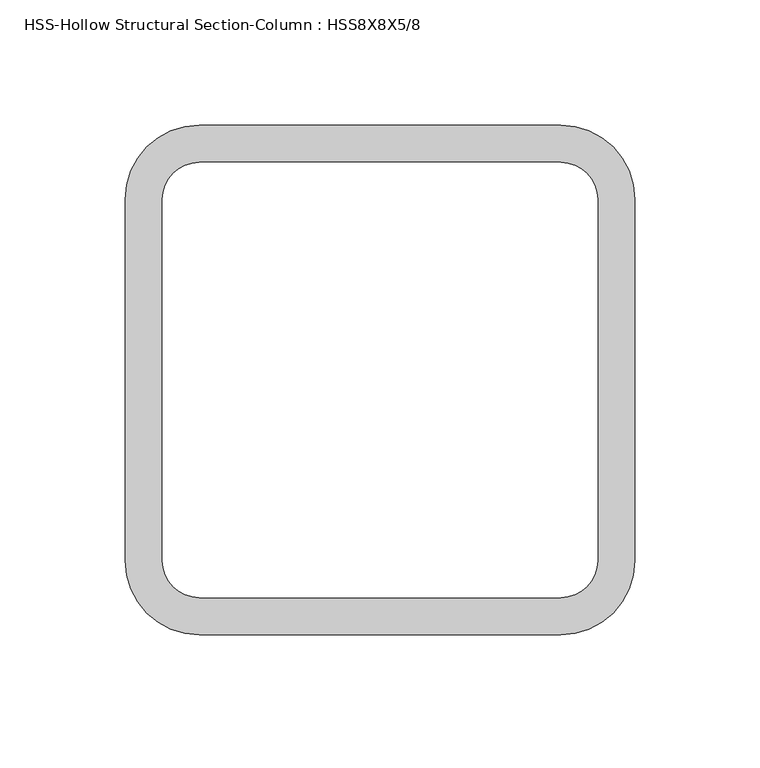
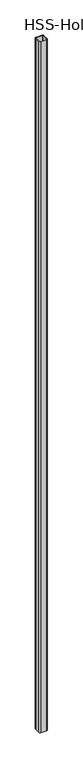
"""IFC4 building model written with IfcOpenShell, lengths in millimetres: column geometry, HSS-Hollow Structural Section-Column : HSS8X8X5/8."""

from ifc_helpers import new_model, si_unit, point, frame_2d, origin, origin_with_axes, place, context, project, spatial, polyline, circle_curve, trimmed, segment, composite_curve, outline, extrude, source, transform, mapped, element, save


def hss_hollow_structural_section_column_hss8x8x5_8_5248236a(model_context):
    return source(origin(), model_context, "Body", "SweptSolid", [
        extrude(outline(composite_curve([segment(trimmed(circle_curve(frame_2d((72.0852, 72.0852)), 29.5148), [point((72.0852, 101.6))], [point((101.6, 72.0852))], False, "CARTESIAN"), True, "CONTINUOUS"), segment(polyline([(101.6, 72.0852), (101.6, -72.0852)]), True, "CONTINUOUS"), segment(trimmed(circle_curve(frame_2d((72.0852, -72.0852)), 29.5148), [point((101.6, -72.0852))], [point((72.0852, -101.6))], False, "CARTESIAN"), True, "CONTINUOUS"), segment(polyline([(72.0852, -101.6), (-72.0852, -101.6)]), True, "CONTINUOUS"), segment(trimmed(circle_curve(frame_2d((-72.0852, -72.0852)), 29.5148), [point((-72.0852, -101.6))], [point((-101.6, -72.0852))], False, "CARTESIAN"), True, "CONTINUOUS"), segment(polyline([(-101.6, -72.0852), (-101.6, 72.0852)]), True, "CONTINUOUS"), segment(trimmed(circle_curve(frame_2d((-72.0852, 72.0852)), 29.5148), [point((-101.6, 72.0852))], [point((-72.0852, 101.6))], False, "CARTESIAN"), True, "CONTINUOUS"), segment(polyline([(-72.0852, 101.6), (72.0852, 101.6)]), True, "CONTINUOUS")], self_intersect=False), holes=[composite_curve([segment(polyline([(72.0852, 86.8426), (-72.0852, 86.8426)]), True, "CONTINUOUS"), segment(trimmed(circle_curve(frame_2d((-72.0852, 72.0852)), 14.7574), [point((-72.0852, 86.8426))], [point((-86.8426, 72.0852))], True, "CARTESIAN"), True, "CONTINUOUS"), segment(polyline([(-86.8426, 72.0852), (-86.8426, -72.0852)]), True, "CONTINUOUS"), segment(trimmed(circle_curve(frame_2d((-72.0852, -72.0852)), 14.7574), [point((-86.8426, -72.0852))], [point((-72.0852, -86.8426))], True, "CARTESIAN"), True, "CONTINUOUS"), segment(polyline([(-72.0852, -86.8426), (72.0852, -86.8426)]), True, "CONTINUOUS"), segment(trimmed(circle_curve(frame_2d((72.0852, -72.0852)), 14.7574), [point((72.0852, -86.8426))], [point((86.8426, -72.0852))], True, "CARTESIAN"), True, "CONTINUOUS"), segment(polyline([(86.8426, -72.0852), (86.8426, 72.0852)]), True, "CONTINUOUS"), segment(trimmed(circle_curve(frame_2d((72.0852, 72.0852)), 14.7574), [point((86.8426, 72.0852))], [point((72.0852, 86.8426))], True, "CARTESIAN"), True, "CONTINUOUS")], self_intersect=False)]), origin_with_axes(), (0.0, 0.0, 1.0), 18288.0),
    ])


if __name__ == "__main__":
    model = new_model("IFC4")
    model_context = context("Model", 3, world=origin())
    ifc_project = project(units=[si_unit("LENGTHUNIT", "METRE", prefix="MILLI")], contexts=[model_context])
    site = spatial("IfcSite", under=ifc_project)
    building = spatial("IfcBuilding", under=site)
    placement = place(None, origin())
    hss_hollow_structural_section_column_hss8x8x5_8_shape = hss_hollow_structural_section_column_hss8x8x5_8_5248236a(model_context)
    element("IfcColumn", 1, ObjectType="HSS-Hollow Structural Section-Column : HSS8X8X5/8", at=placement, inside=building, context=model_context, shape_type="MappedRepresentation", body=[
        mapped(hss_hollow_structural_section_column_hss8x8x5_8_shape, transform((0.0, 0.0, 0.0), x_axis=(1.0, 0.0, 0.0), y_axis=(0.0, 1.0, 0.0), z_axis=(0.0, 0.0, 1.0))),
    ])
    save(model, "model.ifc")
